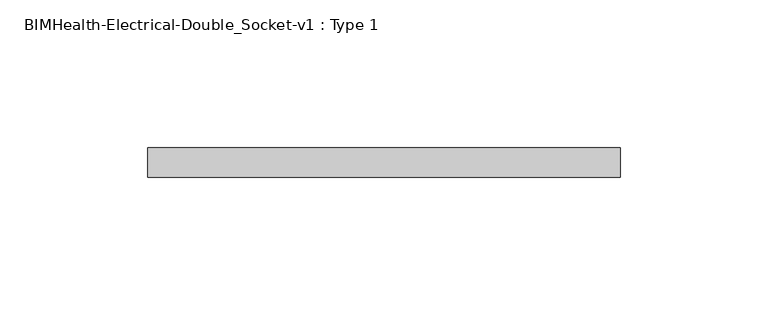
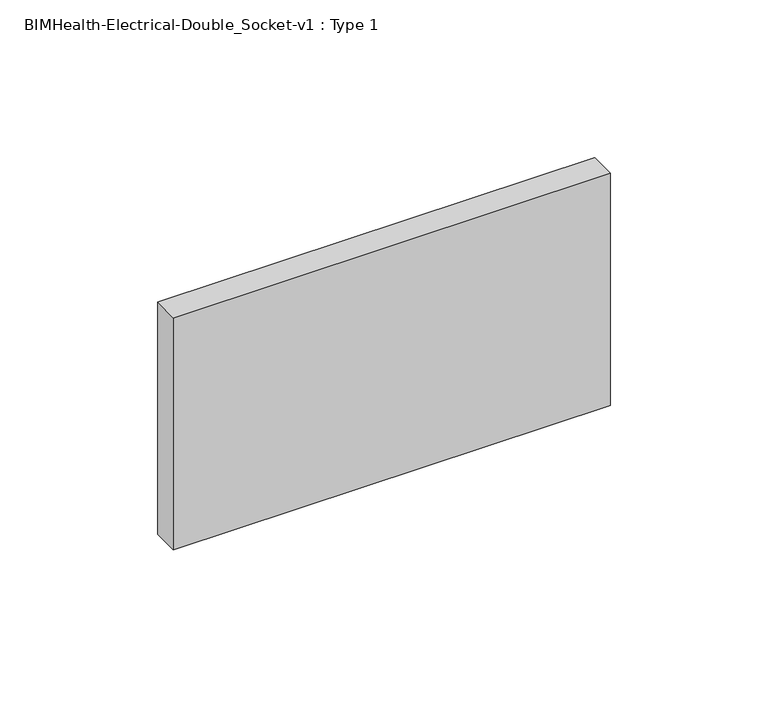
"""IFC4 building model written with IfcOpenShell, lengths in millimetres: proxy geometry, BIMHealth-Electrical-Double_Socket-v1 : Type 1."""

import ifcopenshell
import ifcopenshell.guid

model = None  # the IFC model being written
_history = None  # IfcOwnerHistory: only IFC2X3 demands one
_inside = {}  # id of a spatial element -> (the spatial element, [elements in it])
_under = {}  # id of a project, library or spatial element -> (it, [spatial elements below it])
_declared = {}  # id of a project -> (the project, [libraries it declares])
_typed = {}  # id of a type object -> (the type object, [elements of that type])
_made_of = {}  # id of a material, layer set ... -> (it, [elements and type objects made of it])


def new_model(schema):
    """Start an empty IFC model of exactly this schema.

    Asked for "IFC4X3", IfcOpenShell would pick the latest addendum, in which some entities
    have other attributes; the version numbers below select the first issue.
    IFC2X3 requires an IfcOwnerHistory on every rooted entity: one is made here for all.
    """
    global model, _history
    if schema == "IFC4X3":
        model = ifcopenshell.file(schema_version=(4, 3, 0, 0))
    else:
        model = ifcopenshell.file(schema=schema)
    _inside.clear()
    _under.clear()
    _declared.clear()
    _typed.clear()
    _made_of.clear()
    _history = None
    if model.schema == "IFC2X3":
        org = make("IfcOrganization", Name="unknown")
        user = make(
            "IfcPersonAndOrganization",
            ThePerson=make("IfcPerson", FamilyName="unknown"),
            TheOrganization=org,
        )
        app = make(
            "IfcApplication",
            ApplicationDeveloper=org,
            Version="unknown",
            ApplicationFullName="unknown",
            ApplicationIdentifier="unknown",
        )
        _history = make(
            "IfcOwnerHistory",
            OwningUser=user,
            OwningApplication=app,
            ChangeAction="ADDED",
            CreationDate=0,
        )
    return model


def make(cls, **values):
    """One entity of the class cls with the attributes given. An attribute that is None is left unset."""
    return model.create_entity(
        cls, **{name: value for name, value in values.items() if value is not None}
    )


def rooted(cls, **values):
    """An entity with a GlobalId (a new one), such as an element, a storey or a relation."""
    return make(cls, GlobalId=ifcopenshell.guid.new(), OwnerHistory=_history, **values)


def si_unit(unit_type, name, prefix=None):
    """IfcSIUnit, for example si_unit("LENGTHUNIT", "METRE", prefix="MILLI")."""
    return make("IfcSIUnit", UnitType=unit_type, Prefix=prefix, Name=name)


def assignment(units):
    """IfcUnitAssignment: the units of a project."""
    return None if units is None else make("IfcUnitAssignment", Units=units)


def point(xyz):
    """IfcCartesianPoint."""
    return None if xyz is None else make("IfcCartesianPoint", Coordinates=xyz)


def direction(xyz):
    """IfcDirection."""
    return None if xyz is None else make("IfcDirection", DirectionRatios=xyz)


def frame(location, z_axis=None, x_axis=None):
    """IfcAxis2Placement3D, a coordinate frame: its origin and axes. An axis left out is left unset."""
    return make(
        "IfcAxis2Placement3D",
        Location=point(location),
        Axis=direction(z_axis),
        RefDirection=direction(x_axis),
    )


def origin():
    """The frame at (0, 0, 0) with its axes left unset."""
    return frame((0.0, 0.0, 0.0))


def place(relative_to, where):
    """IfcLocalPlacement: puts the frame where relative to a parent placement (None: the world)."""
    return make(
        "IfcLocalPlacement", PlacementRelTo=relative_to, RelativePlacement=where
    )


def context(
    kind, dimensions, precision=None, world=None, true_north=None, identifier=None
):
    """IfcGeometricRepresentationContext, for example the 3D "Model" context."""
    return make(
        "IfcGeometricRepresentationContext",
        ContextIdentifier=identifier,
        ContextType=kind,
        CoordinateSpaceDimension=dimensions,
        Precision=precision,
        WorldCoordinateSystem=world,
        TrueNorth=true_north,
    )


def project(units=None, contexts=None):
    """IfcProject with its units and contexts."""
    return rooted(
        "IfcProject",
        Name="project",
        RepresentationContexts=contexts,
        UnitsInContext=assignment(units),
    )


def spatial(cls, under=None, at=None, **own):
    """A site, building, storey or space (cls), placed at a placement, below another one or the project."""
    s = rooted(cls, ObjectPlacement=at, **own)
    if under is not None:
        _under.setdefault(under.id(), (under, []))[1].append(s)
    return s


def polyline(points):
    """IfcPolyline through the points."""
    return make("IfcPolyline", Points=[point(p) for p in points])


def outline(outer, holes=None, kind="AREA"):
    """IfcArbitraryClosedProfileDef: a profile drawn as a closed curve; with holes, ...WithVoids."""
    if holes is None:
        return make("IfcArbitraryClosedProfileDef", ProfileType=kind, OuterCurve=outer)
    return make(
        "IfcArbitraryProfileDefWithVoids",
        ProfileType=kind,
        OuterCurve=outer,
        InnerCurves=holes,
    )


def extrude(swept, where, along, depth):
    """IfcExtrudedAreaSolid: the profile swept, set in the frame where, extruded along a direction by depth."""
    return make(
        "IfcExtrudedAreaSolid",
        SweptArea=swept,
        Position=where,
        ExtrudedDirection=direction(along),
        Depth=depth,
    )


def shape(context_of_items, identifier, shape_type, items):
    """IfcShapeRepresentation: the items that make up one representation, for example the "Body"."""
    return make(
        "IfcShapeRepresentation",
        ContextOfItems=context_of_items,
        RepresentationIdentifier=identifier,
        RepresentationType=shape_type,
        Items=items,
    )


def source(mapping_origin, context_of_items, identifier, shape_type, items):
    """IfcRepresentationMap: a shape defined once, which mapped items show again and again."""
    return make(
        "IfcRepresentationMap",
        MappingOrigin=mapping_origin,
        MappedRepresentation=shape(context_of_items, identifier, shape_type, items),
    )


def transform(
    local_origin,
    x_axis=None,
    y_axis=None,
    z_axis=None,
    scale=None,
    scale2=None,
    scale3=None,
    uniform=True,
):
    """IfcCartesianTransformationOperator3D, or its non-uniform kind. x_axis, y_axis, z_axis: its Axis1, 2, 3."""
    if uniform:
        return make(
            "IfcCartesianTransformationOperator3D",
            Axis1=direction(x_axis),
            Axis2=direction(y_axis),
            LocalOrigin=point(local_origin),
            Scale=scale,
            Axis3=direction(z_axis),
        )
    return make(
        "IfcCartesianTransformationOperator3DnonUniform",
        Axis1=direction(x_axis),
        Axis2=direction(y_axis),
        LocalOrigin=point(local_origin),
        Scale=scale,
        Axis3=direction(z_axis),
        Scale2=scale2,
        Scale3=scale3,
    )


def mapped(mapping_source, mapping_target):
    """IfcMappedItem: shows the shape of a source again, moved by a transform."""
    return make(
        "IfcMappedItem", MappingSource=mapping_source, MappingTarget=mapping_target
    )


def made_of(thing, what):
    """Note that an element or type object is made of a material, layer set ...; save() writes the relation."""
    if what is not None:
        _made_of.setdefault(what.id(), (what, []))[1].append(thing)
    return thing


def element(
    cls,
    number,
    at=None,
    inside=None,
    cuts=None,
    type_object=None,
    material=None,
    context=None,
    identifier="Body",
    shape_type=None,
    held_by="IfcProductDefinitionShape",
    body=None,
    shapes=None,
    **own,
):
    """One element of the class cls, such as IfcWall. Its Tag is "e" and its number.

    at: its placement. inside: the storey or other place that contains it. cuts: it is an
    opening in that element (IfcRelVoidsElement). A single representation is given by context,
    identifier, shape_type and body (its items); several are given by shapes. held_by: the class
    of the entity that holds the representations. save() writes the other relations.
    """
    e = rooted(cls, Tag="e%d" % number, ObjectPlacement=at, **own)
    if body is not None:
        shapes = [shape(context, identifier, shape_type, body)]
    if shapes is not None:
        e.Representation = make(held_by, Representations=shapes)
    if inside is not None:
        _inside.setdefault(inside.id(), (inside, []))[1].append(e)
    if cuts is not None:
        rooted(
            "IfcRelVoidsElement", RelatingBuildingElement=cuts, RelatedOpeningElement=e
        )
    if type_object is not None:
        _typed.setdefault(type_object.id(), (type_object, []))[1].append(e)
    return made_of(e, material)


def aggregate(whole, parts):
    """IfcRelAggregates: a whole, such as a stair, and the parts it consists of."""
    return rooted("IfcRelAggregates", RelatingObject=whole, RelatedObjects=parts)


def save(model, path):
    """Write the relations noted so far, then the file.

    IfcRelAggregates (storeys below a building ...), IfcRelContainedInSpatialStructure (elements
    in a storey), IfcRelDefinesByType, IfcRelAssociatesMaterial and IfcRelDeclares: one each for
    every whole, place, type object, material and project.
    """
    for whole, parts in _under.values():
        aggregate(whole, parts)
    for where, things in _inside.values():
        rooted(
            "IfcRelContainedInSpatialStructure",
            RelatedElements=things,
            RelatingStructure=where,
        )
    for kind, things in _typed.values():
        rooted("IfcRelDefinesByType", RelatedObjects=things, RelatingType=kind)
    for what, things in _made_of.values():
        rooted("IfcRelAssociatesMaterial", RelatedObjects=things, RelatingMaterial=what)
    for by, libraries in _declared.values():
        rooted("IfcRelDeclares", RelatingContext=by, RelatedDefinitions=libraries)
    model.write(path)


def bimhealth_electrical_double_socket_v1_type_1_73d2d995(model_context):
    return source(origin(), model_context, "Body", "SweptSolid", [
        extrude(outline(polyline([(285.0, 155.0), (125.0, 155.0), (125.0, 165.0), (285.0, 165.0), (285.0, 155.0)])), frame((0.0, 0.0, 450.0), z_axis=(0.0, 0.0, 1.0), x_axis=(1.0, 0.0, 0.0)), (0.0, 0.0, 1.0), 90.0),
    ])


if __name__ == "__main__":
    model = new_model("IFC4")
    model_context = context("Model", 3, world=origin())
    ifc_project = project(units=[si_unit("LENGTHUNIT", "METRE", prefix="MILLI")], contexts=[model_context])
    site = spatial("IfcSite", under=ifc_project)
    building = spatial("IfcBuilding", under=site)
    placement = place(None, origin())
    bimhealth_electrical_double_socket_v1_type_1_shape = bimhealth_electrical_double_socket_v1_type_1_73d2d995(model_context)
    element("IfcBuildingElementProxy", 1, Name="BIMHealth-Electrical-Double_Socket-v1 : Type 1", ObjectType="BIMHealth-Electrical-Double_Socket-v1 : Type 1", at=placement, inside=building, context=model_context, shape_type="MappedRepresentation", body=[
        mapped(bimhealth_electrical_double_socket_v1_type_1_shape, transform((0.0, 0.0, 0.0), x_axis=(1.0, 0.0, 0.0), y_axis=(0.0, 1.0, 0.0), z_axis=(0.0, 0.0, 1.0))),
    ])
    save(model, "model.ifc")
